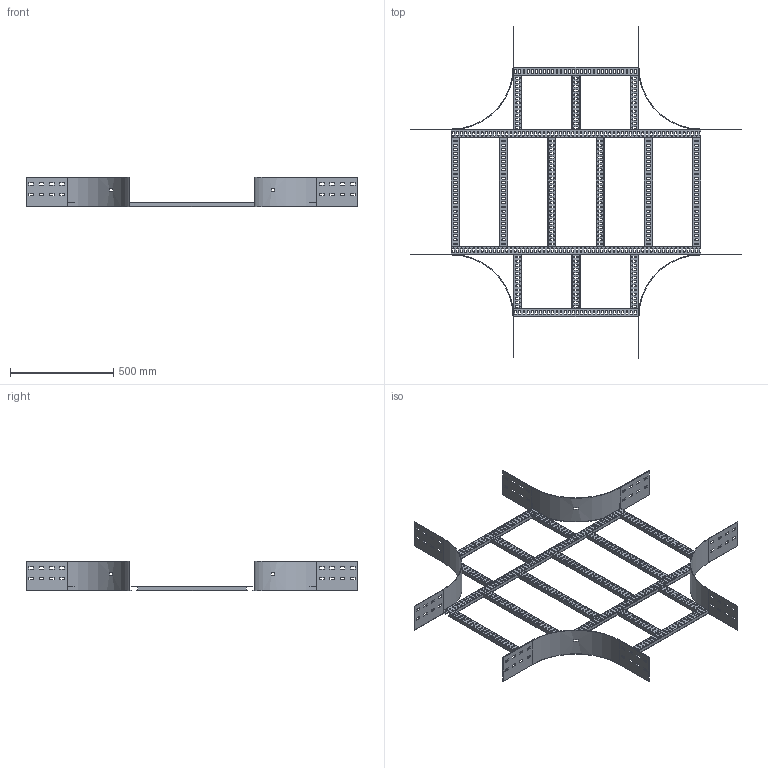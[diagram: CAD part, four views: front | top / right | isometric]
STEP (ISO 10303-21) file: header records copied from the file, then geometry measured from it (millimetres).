
FILE_DESCRIPTION(/* description */ ('','CAx-IF Rec.Pracs.---Representation and Presentation of Product Manufacturing Information (PMI)---4.0---2014-10-13'),/* implementation_level */ '2;1');
FILE_NAME(/* name */ 'Eurostrut_ECO150-600-300_Crossover for Cable Ladder ECL.step',/* time_stamp */ '2026-09-03T13:36:09+02:00',/* author */ (''),/* organization */ (''),/* preprocessor_version */ 'ST-DEVELOPER v20.1',/* originating_system */ 'Autodesk Revit 2027 27.2.0.39',/* authorisation */ '');
FILE_SCHEMA (('AP242_MANAGED_MODEL_BASED_3D_ENGINEERING_MIM_LF { 1 0 10303 442 2 1 4 }'));
Length unit declared in the file: millimetre
Products named in the file (10): TopLevelAssembly; Sweep; Sweep_1; Sweep_2; Sweep_3; Eurostrut_Cable Ladder_Rung_With slots; Eurostrut_Cable Ladder_Rung_With slots_1; Eurostrut_Cable Ladder_Rung Array Straight_Slotted; Eurostrut_Cable Ladder_Rung Array Straight_Slotted_1; Eurostrut_Cable Ladder_Accessory End_54-94-142
Assembly tree (19 placements, depth 2):
  TopLevelAssembly
    Sweep
    Sweep_1
    Eurostrut_Cable Ladder_Rung_With slots  x2
    Eurostrut_Cable Ladder_Rung_With slots_1  x2
    Sweep_2
    Sweep_3
    Eurostrut_Cable Ladder_Rung Array Straight_Slotted
    Eurostrut_Cable Ladder_Rung Array Straight_Slotted_1  x2
    Eurostrut_Cable Ladder_Accessory End_54-94-142  x8
Bounding box: 1611 x 1611 x 142 mm (x, y, z)
Volume: 2464272.5 mm3; surface area: 2434013 mm2
Topology: 28 solids, 28 shells, 2296 faces, 6720 edges, 4480 vertices
Faces by surface type: plane 1392, bspline 832, cylinder 72
Entity records: 64812 total; most frequent: CARTESIAN_POINT 26057, ORIENTED_EDGE 8328, DIRECTION 7182, EDGE_CURVE 4164, LINE 2900, VECTOR 2900, VERTEX_POINT 2776, AXIS2_PLACEMENT_3D 2141
